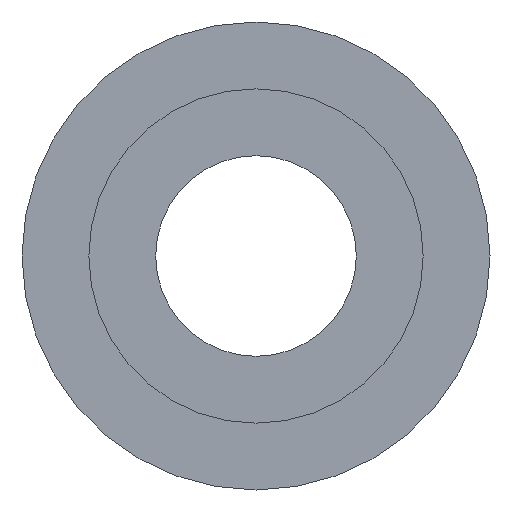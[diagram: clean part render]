
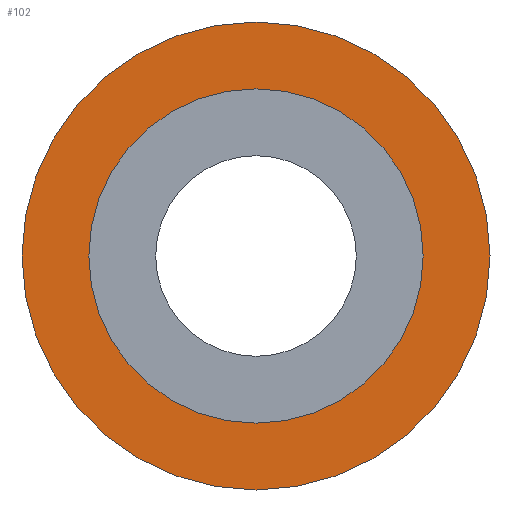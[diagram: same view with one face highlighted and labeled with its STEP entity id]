
A CAD part, left-side view. The second image highlights one B-rep face of the part: STEP entity #102.
In plain terms, the highlighted planar face has unit normal (-1, 0, 0).
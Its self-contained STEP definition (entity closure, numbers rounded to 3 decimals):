
#28=ORIENTED_EDGE('',*,*,#43,.F.);
#29=ORIENTED_EDGE('',*,*,#42,.T.);
#42=EDGE_CURVE('',#50,#50,#58,.T.);
#43=EDGE_CURVE('',#51,#51,#59,.T.);
#50=VERTEX_POINT('',#179);
#51=VERTEX_POINT('',#182);
#58=CIRCLE('',#125,5.);
#59=CIRCLE('',#127,7.);
#68=EDGE_LOOP('',(#28));
#69=EDGE_LOOP('',(#29));
#84=FACE_BOUND('',#68,.T.);
#85=FACE_BOUND('',#69,.T.);
#97=PLANE('',#126);
#102=ADVANCED_FACE('',(#84,#85),#97,.F.);
#125=AXIS2_PLACEMENT_3D('',#178,#147,#148);
#126=AXIS2_PLACEMENT_3D('',#180,#149,#150);
#127=AXIS2_PLACEMENT_3D('',#181,#151,#152);
#147=DIRECTION('',(1.,0.,0.));
#148=DIRECTION('',(0.,0.,-1.));
#149=DIRECTION('',(1.,0.,0.));
#150=DIRECTION('',(0.,0.,-1.));
#151=DIRECTION('',(1.,0.,0.));
#152=DIRECTION('',(0.,0.,-1.));
#178=CARTESIAN_POINT('',(3.5,0.,0.));
#179=CARTESIAN_POINT('',(3.5,0.,-5.));
#180=CARTESIAN_POINT('',(3.5,5.,0.));
#181=CARTESIAN_POINT('',(3.5,0.,0.));
#182=CARTESIAN_POINT('',(3.5,0.,-7.));
